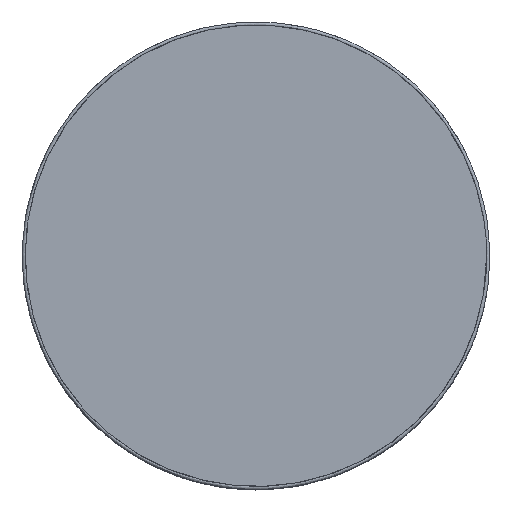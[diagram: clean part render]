
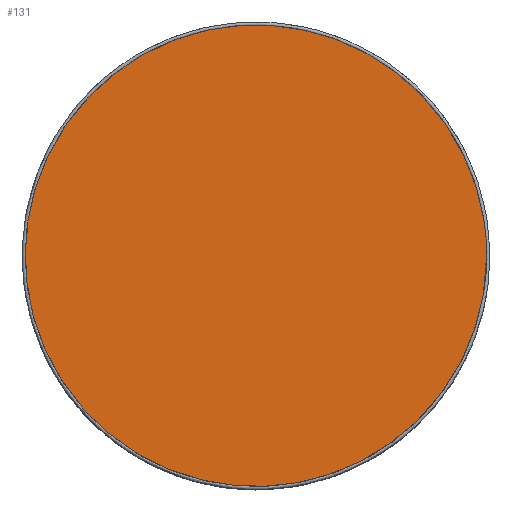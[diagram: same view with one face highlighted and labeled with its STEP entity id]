
A CAD part, top view. The second image highlights one B-rep face of the part: STEP entity #131.
In plain terms, the highlighted free-form (B-spline) face has degree [1, 1] with [2, 2] control points.
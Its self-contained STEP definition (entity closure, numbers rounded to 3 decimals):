
#131=ADVANCED_FACE('',(#244),#1810,.T.);
#244=FACE_OUTER_BOUND('',#357,.T.);
#357=EDGE_LOOP('',(#473));
#473=ORIENTED_EDGE('',*,*,#1431,.F.);
#700=PCURVE('',#1883,#930);
#703=PCURVE('',#1810,#933);
#930=DEFINITIONAL_REPRESENTATION('',(#1160),#6363);
#933=DEFINITIONAL_REPRESENTATION('',(#1548),#6363);
#1160=B_SPLINE_CURVE_WITH_KNOTS('',1,(#2000,#2001),.UNSPECIFIED.,.F.,.F.,
(2,2),(-1900.664,0.),.UNSPECIFIED.);
#1316=SURFACE_CURVE('',#1546,(#700,#703),.PCURVE_S1.);
#1431=EDGE_CURVE('',#1734,#1734,#1316,.T.);
#1546=(
BOUNDED_CURVE()
B_SPLINE_CURVE(2,(#1991,#1992,#1993,#1994,#1995,#1996,#1997,#1998,#1999),
 .UNSPECIFIED.,.T.,.F.)
B_SPLINE_CURVE_WITH_KNOTS((3,2,2,2,3),(-1900.664,-1425.498,
-950.332,-475.166,0.),.UNSPECIFIED.)
CURVE()
GEOMETRIC_REPRESENTATION_ITEM()
RATIONAL_B_SPLINE_CURVE((1.,0.707,1.,0.707,1.,0.707,
1.,0.707,1.))
REPRESENTATION_ITEM('')
);
#1548=(
BOUNDED_CURVE()
B_SPLINE_CURVE(2,(#2013,#2014,#2015,#2016,#2017,#2018,#2019,#2020,#2021),
 .UNSPECIFIED.,.T.,.F.)
B_SPLINE_CURVE_WITH_KNOTS((3,2,2,2,3),(-1900.664,-1425.498,
-950.332,-475.166,0.),.UNSPECIFIED.)
CURVE()
GEOMETRIC_REPRESENTATION_ITEM()
RATIONAL_B_SPLINE_CURVE((1.,0.707,1.,0.707,1.,0.707,
1.,0.707,1.))
REPRESENTATION_ITEM('')
);
#1734=VERTEX_POINT('',#1975);
#1810=B_SPLINE_SURFACE_WITH_KNOTS('',1,1,((#1970,#1971),(#1972,#1973)),
 .UNSPECIFIED.,.F.,.F.,.F.,(2,2),(2,2),(-611.05,6.05),(-308.55,308.55),
 .UNSPECIFIED.);
#1883=(
BOUNDED_SURFACE()
B_SPLINE_SURFACE(2,1,((#1948,#1949),(#1950,#1951),(#1952,#1953),(#1954,
#1955),(#1956,#1957),(#1958,#1959),(#1960,#1961),(#1962,#1963),(#1964,#1965)),
 .UNSPECIFIED.,.T.,.F.,.F.)
B_SPLINE_SURFACE_WITH_KNOTS((3,2,2,2,3),(2,2),(0.,475.166,950.332,
1425.498,1900.664),(0.,2.),.UNSPECIFIED.)
GEOMETRIC_REPRESENTATION_ITEM()
RATIONAL_B_SPLINE_SURFACE(((1.,1.),(0.707,0.707),
(1.,1.),(0.707,0.707),(1.,1.),(0.707,
0.707),(1.,1.),(0.707,0.707),(1.,1.)))
REPRESENTATION_ITEM('')
SURFACE()
);
#1948=CARTESIAN_POINT('',(302.5,0.,401.));
#1949=CARTESIAN_POINT('',(302.5,0.,403.));
#1950=CARTESIAN_POINT('',(302.5,302.5,401.));
#1951=CARTESIAN_POINT('',(302.5,302.5,403.));
#1952=CARTESIAN_POINT('',(0.,302.5,401.));
#1953=CARTESIAN_POINT('',(0.,302.5,403.));
#1954=CARTESIAN_POINT('',(-302.5,302.5,401.));
#1955=CARTESIAN_POINT('',(-302.5,302.5,403.));
#1956=CARTESIAN_POINT('',(-302.5,0.,401.));
#1957=CARTESIAN_POINT('',(-302.5,0.,403.));
#1958=CARTESIAN_POINT('',(-302.5,-302.5,401.));
#1959=CARTESIAN_POINT('',(-302.5,-302.5,403.));
#1960=CARTESIAN_POINT('',(0.,-302.5,401.));
#1961=CARTESIAN_POINT('',(0.,-302.5,403.));
#1962=CARTESIAN_POINT('',(302.5,-302.5,401.));
#1963=CARTESIAN_POINT('',(302.5,-302.5,403.));
#1964=CARTESIAN_POINT('',(302.5,0.,401.));
#1965=CARTESIAN_POINT('',(302.5,0.,403.));
#1970=CARTESIAN_POINT('',(-308.55,-308.55,403.));
#1971=CARTESIAN_POINT('',(-308.55,308.55,403.));
#1972=CARTESIAN_POINT('',(308.55,-308.55,403.));
#1973=CARTESIAN_POINT('',(308.55,308.55,403.));
#1975=CARTESIAN_POINT('',(302.5,0.,403.));
#1991=CARTESIAN_POINT('',(302.5,0.,403.));
#1992=CARTESIAN_POINT('',(302.5,-302.5,403.));
#1993=CARTESIAN_POINT('',(0.,-302.5,403.));
#1994=CARTESIAN_POINT('',(-302.5,-302.5,403.));
#1995=CARTESIAN_POINT('',(-302.5,0.,403.));
#1996=CARTESIAN_POINT('',(-302.5,302.5,403.));
#1997=CARTESIAN_POINT('',(0.,302.5,403.));
#1998=CARTESIAN_POINT('',(302.5,302.5,403.));
#1999=CARTESIAN_POINT('',(302.5,0.,403.));
#2000=CARTESIAN_POINT('',(1900.664,2.));
#2001=CARTESIAN_POINT('',(0.,2.));
#2013=CARTESIAN_POINT('',(0.,0.));
#2014=CARTESIAN_POINT('',(0.,-302.5));
#2015=CARTESIAN_POINT('',(-302.5,-302.5));
#2016=CARTESIAN_POINT('',(-605.,-302.5));
#2017=CARTESIAN_POINT('',(-605.,0.));
#2018=CARTESIAN_POINT('',(-605.,302.5));
#2019=CARTESIAN_POINT('',(-302.5,302.5));
#2020=CARTESIAN_POINT('',(0.,302.5));
#2021=CARTESIAN_POINT('',(0.,0.));
#6363=(
GEOMETRIC_REPRESENTATION_CONTEXT(2)
PARAMETRIC_REPRESENTATION_CONTEXT()
REPRESENTATION_CONTEXT('pspace','')
);
